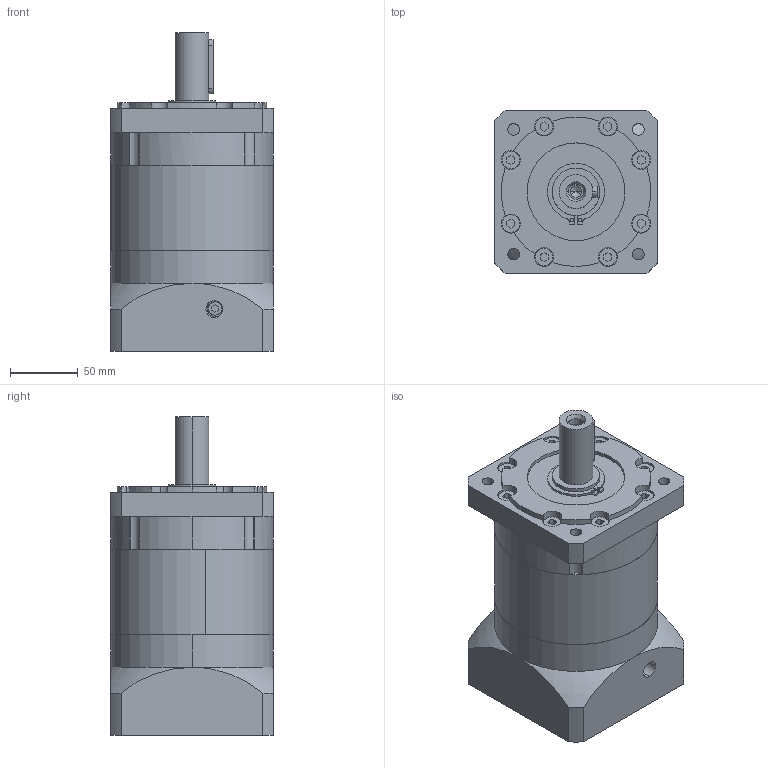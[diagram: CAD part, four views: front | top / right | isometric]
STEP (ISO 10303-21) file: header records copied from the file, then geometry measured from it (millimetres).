
FILE_DESCRIPTION(('FreeCAD Model'),'2;1');
FILE_NAME('Open CASCADE Shape Model','2024-12-11T16:34:03',('Author'),( ''),'Open CASCADE STEP processor 7.6','FreeCAD','Unknown');
FILE_SCHEMA(('AUTOMOTIVE_DESIGN { 1 0 10303 214 1 1 1 1 }'));
Length unit declared in the file: millimetre
Products named in the file (8): AE-120-L2_in22_mot130; SOLID; SOLID001; SOLID002; SOLID003; SOLID004; SOLID005; SOLID006
Assembly tree (7 placements, depth 2):
  AE-120-L2_in22_mot130
    SOLID
    SOLID001
    SOLID002
    SOLID003
    SOLID004
    SOLID005
    SOLID006
Bounding box: 120 x 120 x 234.5 mm (x, y, z)
Volume: 2031258.8 mm3; surface area: 245415.9 mm2
Topology: 7 solids, 15 shells, 627 faces, 1654 edges, 1069 vertices
Faces by surface type: cylinder 206, plane 199, sphere 144, torus 60, cone 14, revolution 4
Entity records: 26561 total; most frequent: CARTESIAN_POINT 9412, ORIENTED_EDGE 3288, DIRECTION 3268, EDGE_CURVE 1644, AXIS2_PLACEMENT_3D 1392, VERTEX_POINT 1069, CIRCLE 761, FACE_BOUND 725
